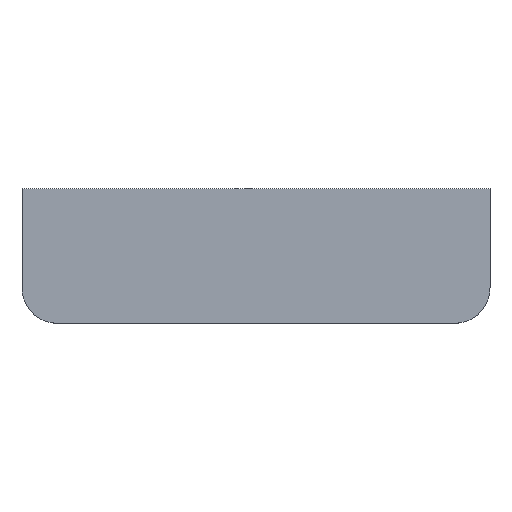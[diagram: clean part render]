
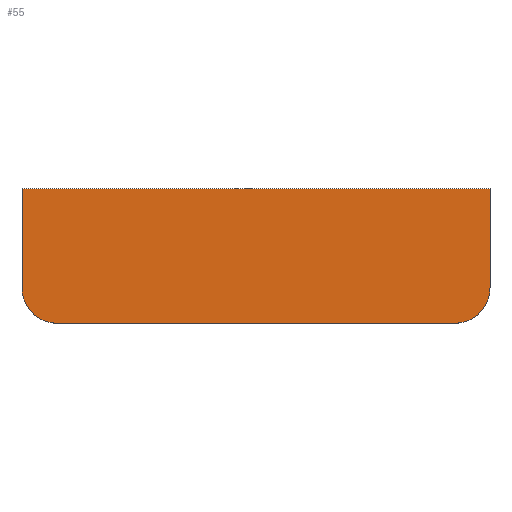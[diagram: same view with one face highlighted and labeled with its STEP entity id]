
A CAD part, top view. The second image highlights one B-rep face of the part: STEP entity #55.
In plain terms, the highlighted planar face has unit normal (0, 0, 1).
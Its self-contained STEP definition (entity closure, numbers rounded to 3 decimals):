
#6 = EDGE_CURVE ( 'NONE', #226, #193, #84, .T. ) ;
#9 = EDGE_LOOP ( 'NONE', ( #34, #208, #131, #247, #122, #56 ) ) ;
#18 = CIRCLE ( 'NONE', #222, 5. ) ;
#21 = EDGE_CURVE ( 'NONE', #186, #163, #240, .T. ) ;
#27 = DIRECTION ( 'NONE',  ( 1., 0., 0. ) ) ;
#31 = CIRCLE ( 'NONE', #203, 5. ) ;
#34 = ORIENTED_EDGE ( 'NONE', *, *, #6, .T. ) ;
#35 = CARTESIAN_POINT ( 'NONE',  ( 28., -9.5, 0. ) ) ;
#37 = CARTESIAN_POINT ( 'NONE',  ( 33., -4.5, 0. ) ) ;
#40 = CARTESIAN_POINT ( 'NONE',  ( -33., -4.5, 0. ) ) ;
#41 = VECTOR ( 'NONE', #75, 1000. ) ;
#45 = CARTESIAN_POINT ( 'NONE',  ( -33., -9.5, 0. ) ) ;
#48 = DIRECTION ( 'NONE',  ( 1., 0., 0. ) ) ;
#50 = CARTESIAN_POINT ( 'NONE',  ( -28., -9.5, 0. ) ) ;
#55 = ADVANCED_FACE ( 'NONE', ( #148 ), #204, .T. ) ;
#56 = ORIENTED_EDGE ( 'NONE', *, *, #175, .T. ) ;
#62 = VECTOR ( 'NONE', #100, 1000. ) ;
#63 = CARTESIAN_POINT ( 'NONE',  ( 0., 0., 0. ) ) ;
#65 = CARTESIAN_POINT ( 'NONE',  ( -28., -4.5, 0. ) ) ;
#67 = CARTESIAN_POINT ( 'NONE',  ( 33., -9.5, 0. ) ) ;
#75 = DIRECTION ( 'NONE',  ( -1., 0., 0. ) ) ;
#81 = EDGE_CURVE ( 'NONE', #165, #169, #244, .T. ) ;
#82 = DIRECTION ( 'NONE',  ( 0., 1., 0. ) ) ;
#84 = LINE ( 'NONE', #86, #62 ) ;
#86 = CARTESIAN_POINT ( 'NONE',  ( -33., 9.5, 0. ) ) ;
#100 = DIRECTION ( 'NONE',  ( 0., -1., 0. ) ) ;
#103 = DIRECTION ( 'NONE',  ( 1., 0., 0. ) ) ;
#107 = CARTESIAN_POINT ( 'NONE',  ( -33., 9.5, 0. ) ) ;
#108 = CARTESIAN_POINT ( 'NONE',  ( 33., 9.5, 0. ) ) ;
#111 = DIRECTION ( 'NONE',  ( 0., 0., 1. ) ) ;
#116 = VECTOR ( 'NONE', #27, 1000. ) ;
#118 = EDGE_CURVE ( 'NONE', #193, #165, #31, .T. ) ;
#122 = ORIENTED_EDGE ( 'NONE', *, *, #21, .T. ) ;
#127 = DIRECTION ( 'NONE',  ( 1., 0., 0. ) ) ;
#131 = ORIENTED_EDGE ( 'NONE', *, *, #81, .T. ) ;
#140 = DIRECTION ( 'NONE',  ( 0., 0., 1. ) ) ;
#148 = FACE_OUTER_BOUND ( 'NONE', #9, .T. ) ;
#163 = VERTEX_POINT ( 'NONE', #216 ) ;
#164 = DIRECTION ( 'NONE',  ( 0., 0., 1. ) ) ;
#165 = VERTEX_POINT ( 'NONE', #50 ) ;
#169 = VERTEX_POINT ( 'NONE', #35 ) ;
#175 = EDGE_CURVE ( 'NONE', #163, #226, #194, .T. ) ;
#186 = VERTEX_POINT ( 'NONE', #37 ) ;
#193 = VERTEX_POINT ( 'NONE', #40 ) ;
#194 = LINE ( 'NONE', #108, #41 ) ;
#203 = AXIS2_PLACEMENT_3D ( 'NONE', #65, #164, #103 ) ;
#204 = PLANE ( 'NONE',  #236 ) ;
#208 = ORIENTED_EDGE ( 'NONE', *, *, #118, .T. ) ;
#209 = VECTOR ( 'NONE', #82, 1000. ) ;
#214 = CARTESIAN_POINT ( 'NONE',  ( 28., -4.5, 0. ) ) ;
#216 = CARTESIAN_POINT ( 'NONE',  ( 33., 9.5, 0. ) ) ;
#219 = EDGE_CURVE ( 'NONE', #169, #186, #18, .T. ) ;
#222 = AXIS2_PLACEMENT_3D ( 'NONE', #214, #111, #127 ) ;
#226 = VERTEX_POINT ( 'NONE', #107 ) ;
#236 = AXIS2_PLACEMENT_3D ( 'NONE', #63, #140, #48 ) ;
#240 = LINE ( 'NONE', #67, #209 ) ;
#244 = LINE ( 'NONE', #45, #116 ) ;
#247 = ORIENTED_EDGE ( 'NONE', *, *, #219, .T. ) ;
